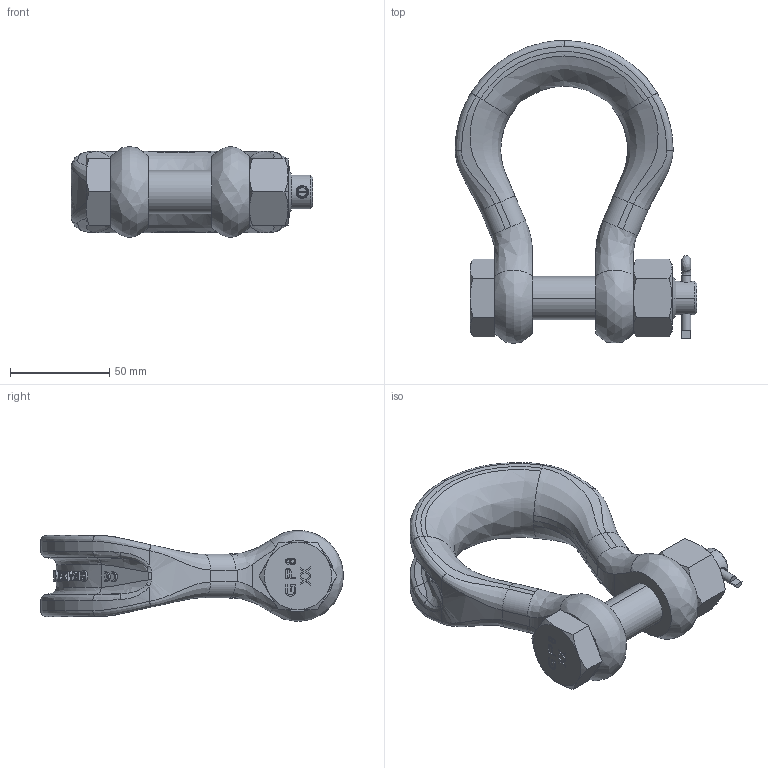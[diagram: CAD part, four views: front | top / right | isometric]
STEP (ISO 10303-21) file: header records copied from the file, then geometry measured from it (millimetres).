
FILE_DESCRIPTION(('STEP AP203'),'1');
FILE_NAME('slgpf0007.stp','2022-07-22T14:27:10',('TraceParts'),('TraceParts S.A.'),'Spatial InterOp 3D',' ',' ');
FILE_SCHEMA(('CONFIG_CONTROL_DESIGN'));
Length unit declared in the file: millimetre
Products named in the file (1): 1
Bounding box: 122 x 152.94 x 46 mm (x, y, z)
Volume: 237996.9 mm3; surface area: 52619.2 mm2
Topology: 4 solids, 4 shells, 592 faces, 1558 edges, 1014 vertices
Faces by surface type: plane 285, bspline 198, cylinder 77, cone 32
Entity records: 45224 total; most frequent: CARTESIAN_POINT 32448, ORIENTED_EDGE 3116, DIRECTION 1793, EDGE_CURVE 1558, VERTEX_POINT 1014, LINE 761, VECTOR 761, B_SPLINE_CURVE_WITH_KNOTS 657
